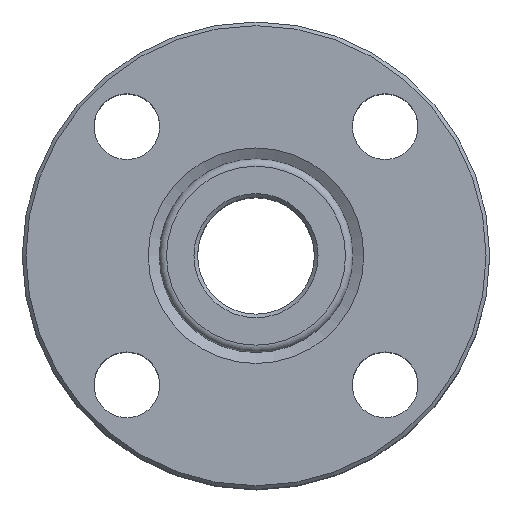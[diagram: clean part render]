
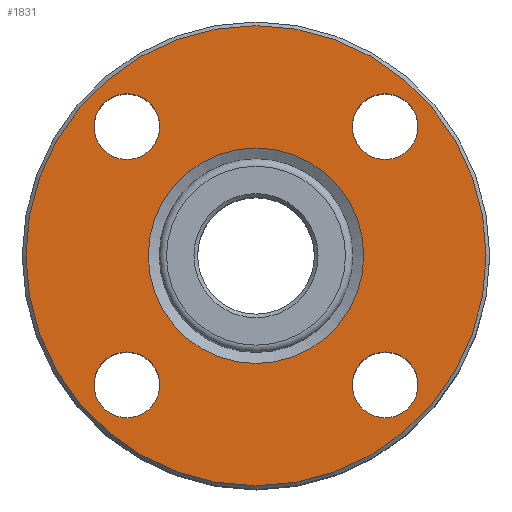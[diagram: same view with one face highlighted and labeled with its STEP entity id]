
A CAD part, top view. The second image highlights one B-rep face of the part: STEP entity #1831.
In plain terms, the highlighted planar face has unit normal (0, 0, 1).
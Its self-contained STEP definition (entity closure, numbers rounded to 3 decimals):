
#73=PLANE('',#2009);
#309=FACE_BOUND('',#446,.T.);
#310=FACE_BOUND('',#447,.T.);
#311=FACE_BOUND('',#448,.T.);
#312=FACE_BOUND('',#449,.T.);
#313=FACE_BOUND('',#450,.T.);
#329=FACE_OUTER_BOUND('',#445,.T.);
#445=EDGE_LOOP('',(#1286));
#446=EDGE_LOOP('',(#1287));
#447=EDGE_LOOP('',(#1288));
#448=EDGE_LOOP('',(#1289));
#449=EDGE_LOOP('',(#1290));
#450=EDGE_LOOP('',(#1291));
#656=CIRCLE('',#2008,63.);
#657=CIRCLE('',#2010,9.);
#658=CIRCLE('',#2011,9.);
#659=CIRCLE('',#2012,9.);
#660=CIRCLE('',#2013,9.);
#661=CIRCLE('',#2014,29.5);
#809=VERTEX_POINT('',#3090);
#810=VERTEX_POINT('',#3094);
#811=VERTEX_POINT('',#3096);
#812=VERTEX_POINT('',#3098);
#813=VERTEX_POINT('',#3100);
#814=VERTEX_POINT('',#3102);
#997=EDGE_CURVE('',#809,#809,#656,.T.);
#998=EDGE_CURVE('',#810,#810,#657,.T.);
#999=EDGE_CURVE('',#811,#811,#658,.T.);
#1000=EDGE_CURVE('',#812,#812,#659,.T.);
#1001=EDGE_CURVE('',#813,#813,#660,.T.);
#1002=EDGE_CURVE('',#814,#814,#661,.T.);
#1286=ORIENTED_EDGE('',*,*,#997,.F.);
#1287=ORIENTED_EDGE('',*,*,#998,.F.);
#1288=ORIENTED_EDGE('',*,*,#999,.F.);
#1289=ORIENTED_EDGE('',*,*,#1000,.F.);
#1290=ORIENTED_EDGE('',*,*,#1001,.F.);
#1291=ORIENTED_EDGE('',*,*,#1002,.T.);
#1831=ADVANCED_FACE('',(#329,#309,#310,#311,#312,#313),#73,.F.);
#2008=AXIS2_PLACEMENT_3D('',#3092,#2280,#2281);
#2009=AXIS2_PLACEMENT_3D('',#3093,#2282,#2283);
#2010=AXIS2_PLACEMENT_3D('',#3095,#2284,#2285);
#2011=AXIS2_PLACEMENT_3D('',#3097,#2286,#2287);
#2012=AXIS2_PLACEMENT_3D('',#3099,#2288,#2289);
#2013=AXIS2_PLACEMENT_3D('',#3101,#2290,#2291);
#2014=AXIS2_PLACEMENT_3D('',#3103,#2292,#2293);
#2280=DIRECTION('center_axis',(0.,0.,-1.));
#2281=DIRECTION('ref_axis',(-1.,0.,0.));
#2282=DIRECTION('center_axis',(0.,0.,-1.));
#2283=DIRECTION('ref_axis',(-1.,0.,0.));
#2284=DIRECTION('center_axis',(0.,0.,1.));
#2285=DIRECTION('ref_axis',(1.,0.,0.));
#2286=DIRECTION('center_axis',(0.,0.,1.));
#2287=DIRECTION('ref_axis',(1.,0.,0.));
#2288=DIRECTION('center_axis',(0.,0.,1.));
#2289=DIRECTION('ref_axis',(1.,0.,0.));
#2290=DIRECTION('center_axis',(0.,0.,1.));
#2291=DIRECTION('ref_axis',(1.,0.,0.));
#2292=DIRECTION('center_axis',(0.,0.,-1.));
#2293=DIRECTION('ref_axis',(0.,1.,0.));
#3090=CARTESIAN_POINT('',(63.,0.,43.5));
#3092=CARTESIAN_POINT('Origin',(0.,0.,43.5));
#3093=CARTESIAN_POINT('Origin',(0.,0.,43.5));
#3094=CARTESIAN_POINT('',(-44.355,35.355,43.5));
#3095=CARTESIAN_POINT('Origin',(-35.355,35.355,43.5));
#3096=CARTESIAN_POINT('',(-44.355,-35.355,43.5));
#3097=CARTESIAN_POINT('Origin',(-35.355,-35.355,43.5));
#3098=CARTESIAN_POINT('',(26.355,-35.355,43.5));
#3099=CARTESIAN_POINT('Origin',(35.355,-35.355,43.5));
#3100=CARTESIAN_POINT('',(26.355,35.355,43.5));
#3101=CARTESIAN_POINT('Origin',(35.355,35.355,43.5));
#3102=CARTESIAN_POINT('',(0.,-29.5,43.5));
#3103=CARTESIAN_POINT('Origin',(0.,0.,43.5));
